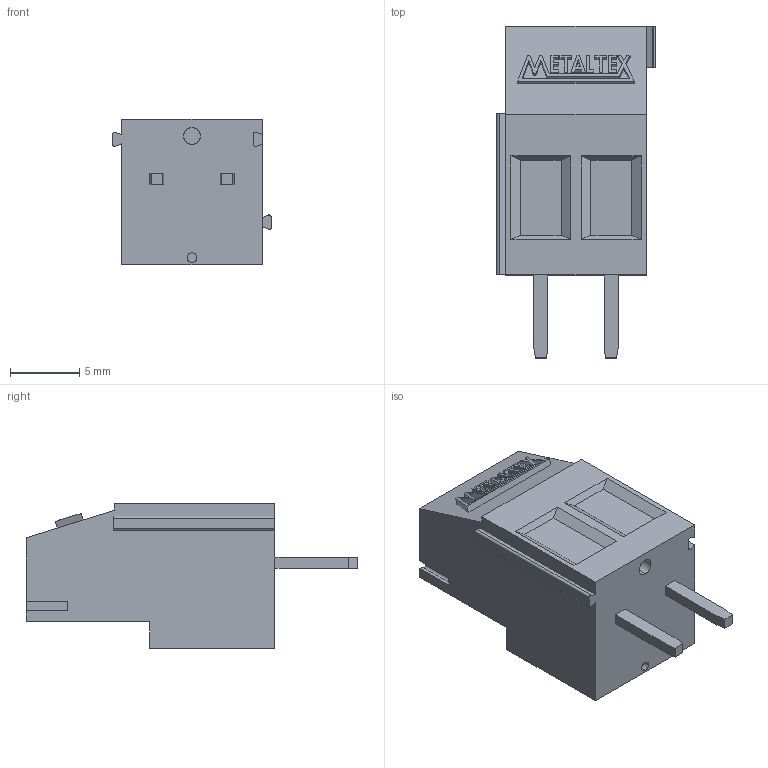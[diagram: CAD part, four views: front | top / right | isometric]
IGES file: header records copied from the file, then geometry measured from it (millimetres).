
Start section: SolidWorks IGES file using analytic representation for surfaces
Global section: file name: D:\X - Arquivos\PROEX\Empresas\P11 - METALTEX\Arquivo - Recebi por e-mail\4\IGES\BR902V.IGS; native system: SolidWorks 2012; preprocessor: SolidWorks 2012; author: Usuario; date: 190530.144447; units: millimetre
Bounding box: 11.46 x 24 x 10.5 mm (x, y, z)
Surface area: 1228.5 mm2 (no closed solid volume)
Topology: 0 solids, 0 shells, 248 faces, 1670 edges, 1670 vertices
Faces by surface type: bspline 184, revolution 64
